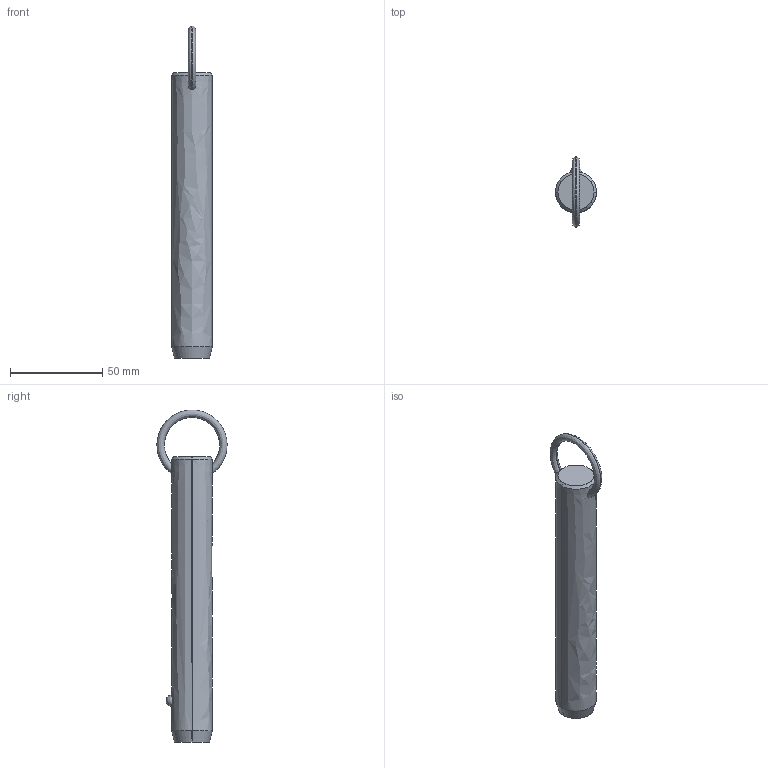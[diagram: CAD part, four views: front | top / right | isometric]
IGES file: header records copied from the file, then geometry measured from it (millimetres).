
Start section: SolidWorks IGES file using analytic representation for surfaces
Global section: file name: C:\Users\liam_\OneDrive\Documents\WORK\Work for WixRoyd\Job Files\J-00019 - Matt Davis CAD Checking\04. CAD Drawings\automotion20190605\P1250.2_v2\P1250.2_v2_20190729_IGES\P1250.087-460.igs; native system: SolidWorks 2017; preprocessor: SolidWorks 2017; author: liam_; date: 190730.001239; units: millimetre
Bounding box: 22.2 x 38.09 x 180.3 mm (x, y, z)
Surface area: 12447 mm2 (no closed solid volume)
Topology: 0 solids, 0 shells, 12 faces, 302 edges, 300 vertices
Faces by surface type: revolution 8, bspline 4
